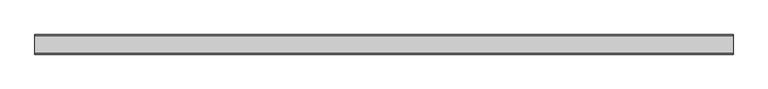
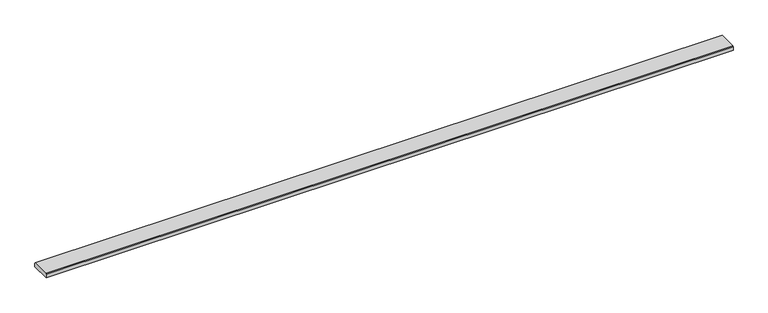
"""IFC4 building model written with IfcOpenShell, lengths in millimetres: proxy geometry."""

from ifc_helpers import new_model, si_unit, frame, origin, place, context, project, spatial, polyline, outline, extrude, source, transform, mapped, element, save


def generic_models_56fe7767(model_context):
    return source(origin(), model_context, "Body", "SweptSolid", [
        extrude(outline(polyline([(0.0, 13.629936), (2.245064, 15.875), (66.334936, 15.875), (68.58, 13.629936), (68.58, 0.0), (0.0, 0.0), (0.0, 13.629936)])), frame((0.0, 0.0, 0.0), z_axis=(1.0, 0.0, 0.0), x_axis=(0.0, 1.0, 0.0)), (0.0, 0.0, 1.0), 2438.4),
    ])


if __name__ == "__main__":
    model = new_model("IFC4")
    model_context = context("Model", 3, world=origin())
    ifc_project = project(units=[si_unit("LENGTHUNIT", "METRE", prefix="MILLI")], contexts=[model_context])
    site = spatial("IfcSite", under=ifc_project)
    building = spatial("IfcBuilding", under=site)
    placement = place(None, origin())
    generic_models_shape = generic_models_56fe7767(model_context)
    element("IfcBuildingElementProxy", 1, Name="440 Series Reversible Trim (Fiber) : 440 Series Reversible Trim (Fiber) - 2.7\"", ObjectType="440 Series Reversible Trim (Fiber) : 440 Series Reversible Trim (Fiber) - 2.7\"", at=placement, inside=building, context=model_context, shape_type="MappedRepresentation", body=[
        mapped(generic_models_shape, transform((0.0, 0.0, 0.0), x_axis=(1.0, 0.0, 0.0), y_axis=(0.0, 1.0, 0.0), z_axis=(0.0, 0.0, 1.0))),
    ])
    save(model, "model.ifc")
